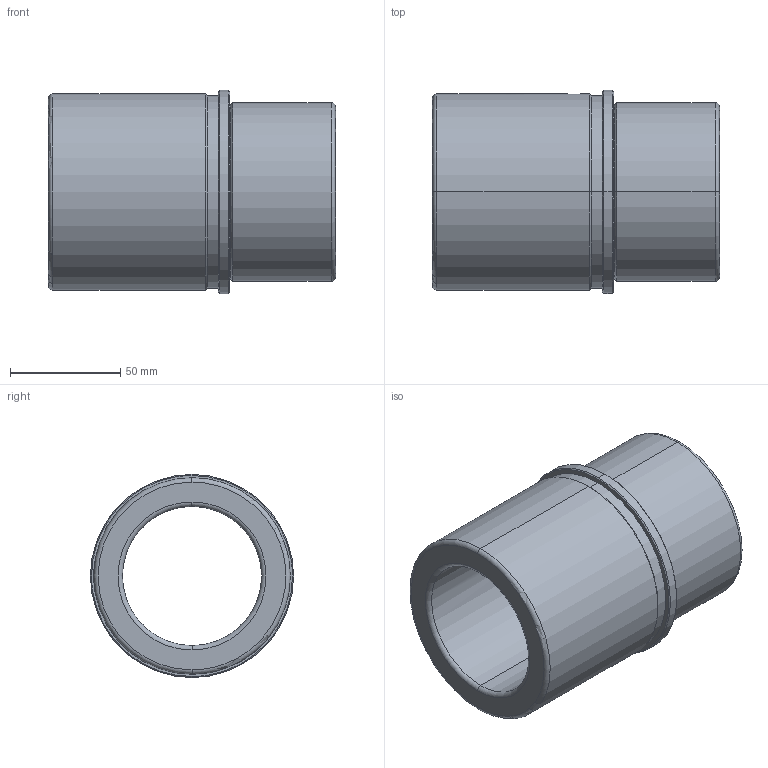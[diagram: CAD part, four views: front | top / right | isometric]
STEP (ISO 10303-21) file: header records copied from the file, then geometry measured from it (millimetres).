
FILE_DESCRIPTION(('CATIA V5 STEP Exchange'),'2;1');
FILE_NAME('C:\Users\Utente\Desktop\IO LAVORO\3D X SITO CF\X SITO\FAMO\FAMO-SF1-E63 x 130.stp','2021-01-06T16:58:59+00:00',('none'),('none'),'CATIA Version 5 Release 20 GA (IN-10)','CATIA V5 STEP AP203','none');
FILE_SCHEMA(('CONFIG_CONTROL_DESIGN'));
Length unit declared in the file: millimetre
Products named in the file (1): FAMO-SF1-E63 x 130
Bounding box: 130 x 92 x 92 mm (x, y, z)
Volume: 350541.7 mm3; surface area: 68306 mm2
Topology: 1 solids, 1 shells, 37 faces, 125 edges, 93 vertices
Faces by surface type: cylinder 14, cone 10, torus 8, plane 5
Entity records: 1673 total; most frequent: CARTESIAN_POINT 548, ORIENTED_EDGE 250, DIRECTION 179, EDGE_CURVE 125, AXIS2_PLACEMENT_3D 119, VERTEX_POINT 93, CIRCLE 81, EDGE_LOOP 44
